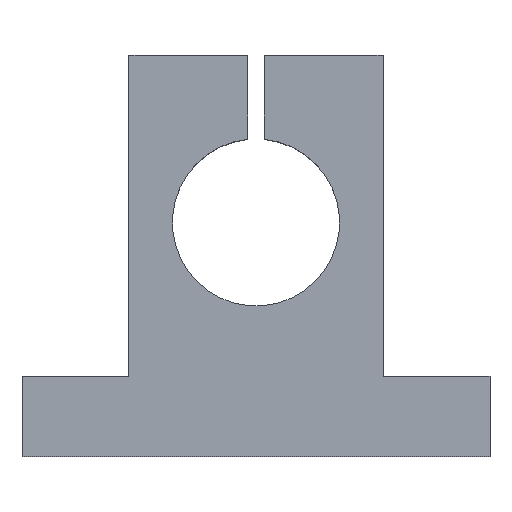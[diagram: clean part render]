
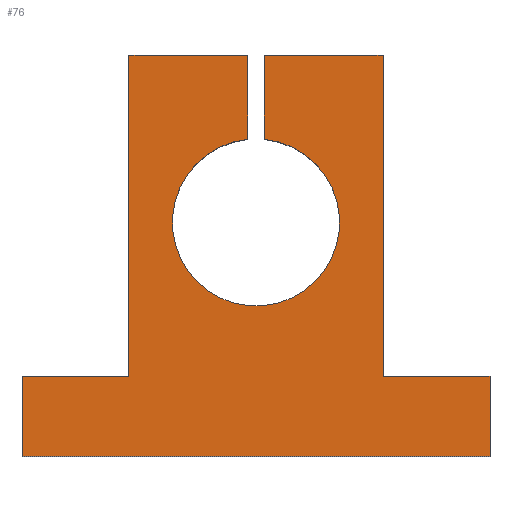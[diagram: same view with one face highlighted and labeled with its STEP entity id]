
A CAD part, top view. The second image highlights one B-rep face of the part: STEP entity #76.
In plain terms, the highlighted planar face has unit normal (0, 0, 1).
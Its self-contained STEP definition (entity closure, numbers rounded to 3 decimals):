
#76 = ADVANCED_FACE( '', ( #94 ), #95, .T. );
#94 = FACE_OUTER_BOUND( '', #132, .T. );
#95 = PLANE( '', #133 );
#132 = EDGE_LOOP( '', ( #175, #176, #177, #178, #179, #180, #181, #182, #183, #184, #185, #186 ) );
#133 = AXIS2_PLACEMENT_3D( '', #187, #188, #189 );
#175 = ORIENTED_EDGE( '', *, *, #300, .T. );
#176 = ORIENTED_EDGE( '', *, *, #301, .T. );
#177 = ORIENTED_EDGE( '', *, *, #302, .T. );
#178 = ORIENTED_EDGE( '', *, *, #303, .T. );
#179 = ORIENTED_EDGE( '', *, *, #304, .T. );
#180 = ORIENTED_EDGE( '', *, *, #305, .T. );
#181 = ORIENTED_EDGE( '', *, *, #306, .T. );
#182 = ORIENTED_EDGE( '', *, *, #307, .T. );
#183 = ORIENTED_EDGE( '', *, *, #308, .F. );
#184 = ORIENTED_EDGE( '', *, *, #309, .T. );
#185 = ORIENTED_EDGE( '', *, *, #310, .T. );
#186 = ORIENTED_EDGE( '', *, *, #298, .T. );
#187 = CARTESIAN_POINT( '', ( 0., 35., 12. ) );
#188 = DIRECTION( '', ( 0., 0., 1. ) );
#189 = DIRECTION( '', ( 1., 0., 0. ) );
#298 = EDGE_CURVE( '', #341, #339, #342, .T. );
#300 = EDGE_CURVE( '', #339, #344, #345, .T. );
#301 = EDGE_CURVE( '', #344, #346, #347, .T. );
#302 = EDGE_CURVE( '', #346, #348, #349, .T. );
#303 = EDGE_CURVE( '', #348, #350, #351, .T. );
#304 = EDGE_CURVE( '', #350, #352, #353, .T. );
#305 = EDGE_CURVE( '', #352, #354, #355, .T. );
#306 = EDGE_CURVE( '', #354, #356, #357, .T. );
#307 = EDGE_CURVE( '', #356, #358, #359, .T. );
#308 = EDGE_CURVE( '', #360, #358, #361, .T. );
#309 = EDGE_CURVE( '', #360, #362, #363, .T. );
#310 = EDGE_CURVE( '', #362, #341, #364, .T. );
#339 = VERTEX_POINT( '', #408 );
#341 = VERTEX_POINT( '', #411 );
#342 = LINE( '', #412, #413 );
#344 = VERTEX_POINT( '', #416 );
#345 = LINE( '', #417, #418 );
#346 = VERTEX_POINT( '', #419 );
#347 = LINE( '', #420, #421 );
#348 = VERTEX_POINT( '', #422 );
#349 = LINE( '', #423, #424 );
#350 = VERTEX_POINT( '', #425 );
#351 = LINE( '', #426, #427 );
#352 = VERTEX_POINT( '', #428 );
#353 = LINE( '', #429, #430 );
#354 = VERTEX_POINT( '', #431 );
#355 = LINE( '', #432, #433 );
#356 = VERTEX_POINT( '', #434 );
#357 = LINE( '', #435, #436 );
#358 = VERTEX_POINT( '', #437 );
#359 = LINE( '', #438, #439 );
#360 = VERTEX_POINT( '', #440 );
#361 = CIRCLE( '', #441, 12.5 );
#362 = VERTEX_POINT( '', #442 );
#363 = LINE( '', #443, #444 );
#364 = LINE( '', #445, #446 );
#408 = CARTESIAN_POINT( '', ( -19., 12., 12. ) );
#411 = CARTESIAN_POINT( '', ( -19., 60., 12. ) );
#412 = CARTESIAN_POINT( '', ( -19., 60., 12. ) );
#413 = VECTOR( '', #508, 1000. );
#416 = CARTESIAN_POINT( '', ( -35., 12., 12. ) );
#417 = CARTESIAN_POINT( '', ( -19., 12., 12. ) );
#418 = VECTOR( '', #510, 1000. );
#419 = CARTESIAN_POINT( '', ( -35., 0., 12. ) );
#420 = CARTESIAN_POINT( '', ( -35., 12., 12. ) );
#421 = VECTOR( '', #511, 1000. );
#422 = CARTESIAN_POINT( '', ( 35., 0., 12. ) );
#423 = CARTESIAN_POINT( '', ( -35., 0., 12. ) );
#424 = VECTOR( '', #512, 1000. );
#425 = CARTESIAN_POINT( '', ( 35., 12., 12. ) );
#426 = CARTESIAN_POINT( '', ( 35., 0., 12. ) );
#427 = VECTOR( '', #513, 1000. );
#428 = CARTESIAN_POINT( '', ( 19., 12., 12. ) );
#429 = CARTESIAN_POINT( '', ( 35., 12., 12. ) );
#430 = VECTOR( '', #514, 1000. );
#431 = CARTESIAN_POINT( '', ( 19., 60., 12. ) );
#432 = CARTESIAN_POINT( '', ( 19., 12., 12. ) );
#433 = VECTOR( '', #515, 1000. );
#434 = CARTESIAN_POINT( '', ( 1.25, 60., 12. ) );
#435 = CARTESIAN_POINT( '', ( 19., 60., 12. ) );
#436 = VECTOR( '', #516, 1000. );
#437 = CARTESIAN_POINT( '', ( 1.25, 47.437, 12. ) );
#438 = CARTESIAN_POINT( '', ( 1.25, 60., 12. ) );
#439 = VECTOR( '', #517, 1000. );
#440 = CARTESIAN_POINT( '', ( -1.25, 47.437, 12. ) );
#441 = AXIS2_PLACEMENT_3D( '', #518, #519, #520 );
#442 = CARTESIAN_POINT( '', ( -1.25, 60., 12. ) );
#443 = CARTESIAN_POINT( '', ( -1.25, 47.437, 12. ) );
#444 = VECTOR( '', #521, 1000. );
#445 = CARTESIAN_POINT( '', ( -1.25, 60., 12. ) );
#446 = VECTOR( '', #522, 1000. );
#508 = DIRECTION( '', ( 0., -1., 0. ) );
#510 = DIRECTION( '', ( -1., 0., 0. ) );
#511 = DIRECTION( '', ( 0., -1., 0. ) );
#512 = DIRECTION( '', ( 1., 0., 0. ) );
#513 = DIRECTION( '', ( 0., 1., 0. ) );
#514 = DIRECTION( '', ( -1., 0., 0. ) );
#515 = DIRECTION( '', ( 0., 1., 0. ) );
#516 = DIRECTION( '', ( -1., 0., 0. ) );
#517 = DIRECTION( '', ( 0., -1., 0. ) );
#518 = CARTESIAN_POINT( '', ( 0., 35., 12. ) );
#519 = DIRECTION( '', ( 0., 0., 1. ) );
#520 = DIRECTION( '', ( 1., 0., 0. ) );
#521 = DIRECTION( '', ( 0., 1., 0. ) );
#522 = DIRECTION( '', ( -1., 0., 0. ) );
